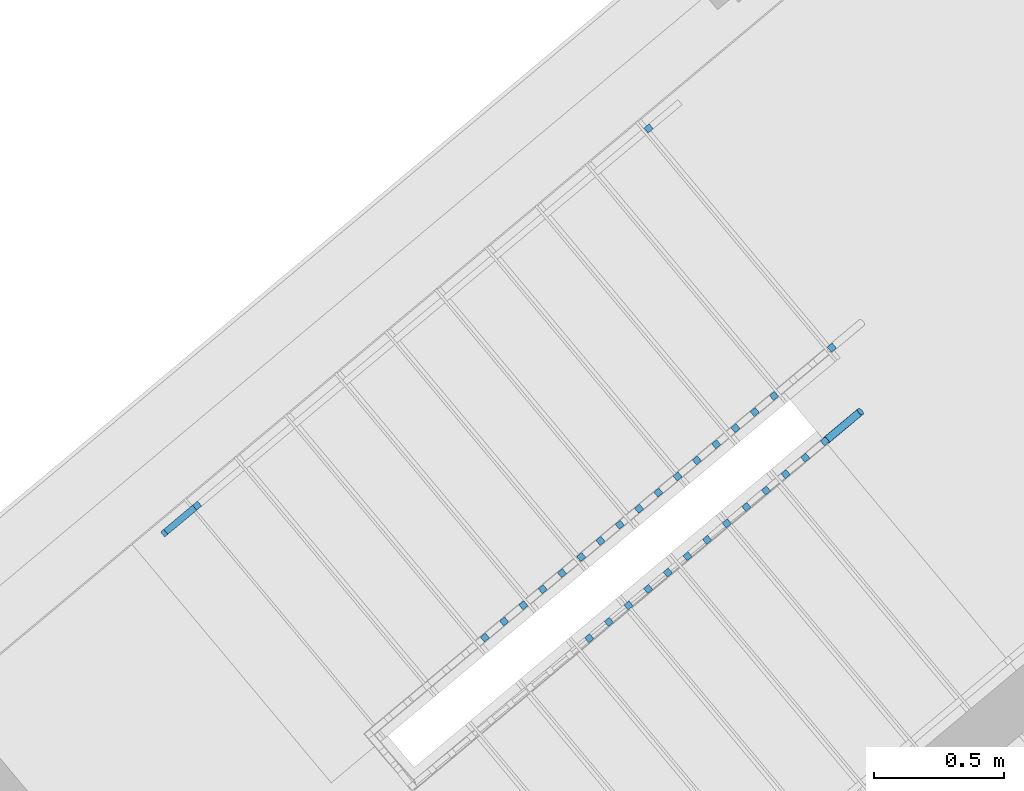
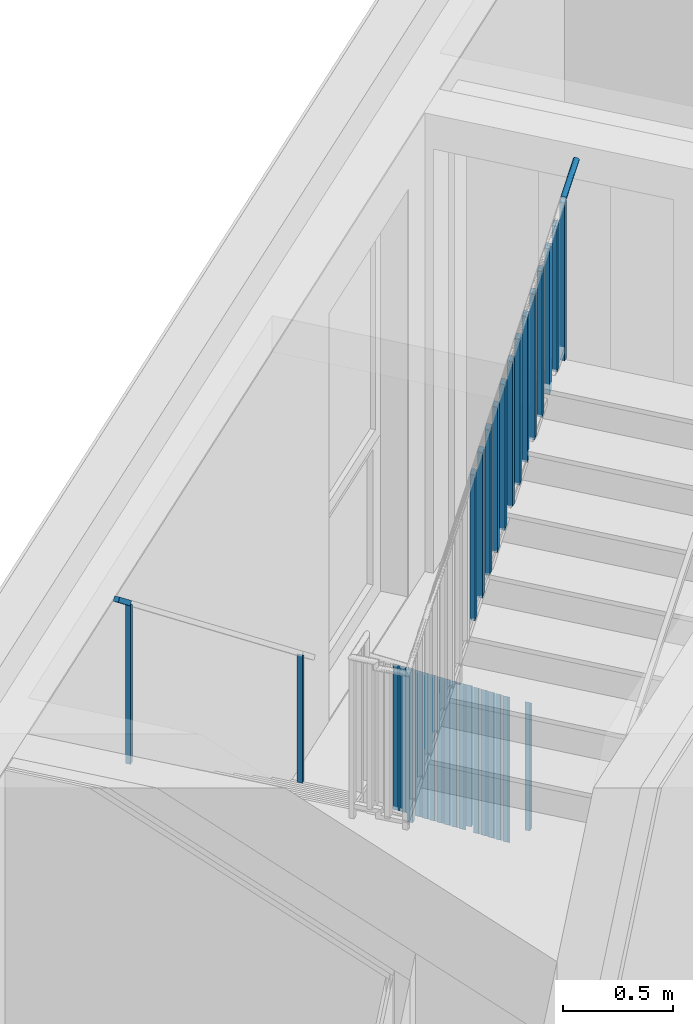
# One storey, part 48 of 61: 34 building element parts, 2 elements without a shape of their own.
"""IFC4 building model written with IfcOpenShell, lengths in metres."""

from ifc_helpers import new_model, entity, si_unit, converted_unit, derived_unit, direction, frame, origin_with_axes, place, context, subcontext, project, spatial, polygons, material, type_object, element, aggregate, save


model = new_model("IFC4")

# Units and contexts
model_context = context("Model", 3, precision=1e-05, world=origin_with_axes(), true_north=direction((0.0, 1.0)))
body_context = subcontext(model_context, "Body", "Model", "MODEL_VIEW")
ifc_project = project(units=[si_unit("LENGTHUNIT", "METRE"), si_unit("AREAUNIT", "SQUARE_METRE"), si_unit("VOLUMEUNIT", "CUBIC_METRE"), converted_unit("PLANEANGLEUNIT", "DEGREE", entity("IfcPlaneAngleMeasure", 0.0174532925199), si_unit("PLANEANGLEUNIT", "RADIAN"), dimensions=[0, 0, 0, 0, 0, 0, 0]), converted_unit("TIMEUNIT", "Year", entity("IfcTimeMeasure", 31556926.0), si_unit("TIMEUNIT", "SECOND"), dimensions=[0, 0, 1, 0, 0, 0, 0]), si_unit("MASSUNIT", "GRAM", prefix="KILO"), si_unit("THERMODYNAMICTEMPERATUREUNIT", "DEGREE_CELSIUS"), si_unit("LUMINOUSINTENSITYUNIT", "LUMEN"), si_unit("ENERGYUNIT", "JOULE", prefix="MEGA"), derived_unit("THERMALCONDUCTANCEUNIT", [(si_unit("POWERUNIT", "WATT"), 1), (si_unit("LENGTHUNIT", "METRE"), -1), (si_unit("THERMODYNAMICTEMPERATUREUNIT", "KELVIN"), -1)]), derived_unit("SPECIFICHEATCAPACITYUNIT", [(si_unit("ENERGYUNIT", "JOULE"), 1), (si_unit("MASSUNIT", "GRAM", prefix="KILO"), -1), (si_unit("THERMODYNAMICTEMPERATUREUNIT", "KELVIN"), -1)]), derived_unit("MASSDENSITYUNIT", [(si_unit("MASSUNIT", "GRAM", prefix="KILO"), 1), (si_unit("VOLUMEUNIT", "CUBIC_METRE"), -1)])], contexts=[model_context])

# Site, building, storey, space
site_placement = place(None, frame((-0.00153261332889, -0.00661245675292, 0.0), z_axis=(0.0, 0.0, 1.0), x_axis=(1.0, 0.0, 0.0)))
site = spatial("IfcSite", under=ifc_project, at=site_placement, Name="Gelände", CompositionType="ELEMENT")
building_placement = place(site_placement, origin_with_axes())
building = spatial("IfcBuilding", under=site, at=building_placement, Name="Gebäude", CompositionType="ELEMENT")
storey_placement = place(building_placement, frame((0.0, 0.0, 5.7), z_axis=(0.0, 0.0, 1.0), x_axis=(1.0, 0.0, 0.0)))
storey = spatial("IfcBuildingStorey", under=building, at=storey_placement, Name="DG1", CompositionType="ELEMENT", Elevation=5.7)
space_placement = place(storey_placement, frame((0.280300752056, 22.6307267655, 0.22), z_axis=(0.0, 0.0, 1.0), x_axis=(-0.641244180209, 0.767336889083, 0.0)))
space = spatial("IfcSpace", under=storey, at=space_placement, CompositionType="ELEMENT", PredefinedType="NOTDEFINED")

# Railing, building element parts
railing_type = type_object("IfcRailingType", Name="Geländerart", PredefinedType="NOTDEFINED")
railing_1_placement = place(space_placement, frame((1.35982515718, -0.251690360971, -0.17), z_axis=(0.0, 0.0, 1.0), x_axis=(-0.641244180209, -0.767336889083, 0.0)))
railing_1 = element("IfcRailing", 1, at=railing_1_placement, inside=space, type_object=railing_type, Name="Geländer - 001", PredefinedType="NOTDEFINED")
ifc_material = material(Name="BEKLEIDUNG")
building_element_part_1_placement = place(railing_1_placement, origin_with_axes())
building_element_part_1 = element("IfcBuildingElementPart", 2, at=building_element_part_1_placement, material=ifc_material, Name="BEKLEIDUNG", PredefinedType="NOTDEFINED", context=body_context, shape_type="Tessellation", body=[
    polygons([(-0.0496656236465, 0.0399477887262, 0.177058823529), (-0.0336363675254, 0.0207628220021, 0.177058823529), (-0.0336363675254, 0.0207628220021, 0.889746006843), (-0.0496656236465, 0.0399477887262, 0.889746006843), (-0.0304806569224, 0.0559770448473, 0.177058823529), (-0.0144514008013, 0.0367920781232, 0.177058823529), (-0.0144514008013, 0.0367920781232, 0.870253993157), (-0.0304806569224, 0.0559770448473, 0.870253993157)], [[[1, 2, 3, 4]], [[1, 5, 6, 2]], [[2, 6, 7, 3]], [[4, 3, 7, 8]], [[5, 1, 4, 8]], [[6, 5, 8, 7]]], closed=True),
])
building_element_part_2_placement = place(railing_1_placement, origin_with_axes())
building_element_part_2 = element("IfcBuildingElementPart", 3, at=building_element_part_2_placement, material=ifc_material, Name="BEKLEIDUNG", PredefinedType="NOTDEFINED", context=body_context, shape_type="Tessellation", body=[
    polygons([(-0.0409350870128, -0.323945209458, 3.01), (-0.0569653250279, -0.30476106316, 3.01), (-0.0569653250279, -0.30476106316, 3.89767233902), (-0.0409350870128, -0.323945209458, 3.89767233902), (-0.0601192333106, -0.339975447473, 3.01), (-0.0761494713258, -0.320791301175, 3.01), (-0.0761494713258, -0.320791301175, 3.88232766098), (-0.0601192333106, -0.339975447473, 3.88232766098)], [[[1, 2, 3, 4]], [[1, 5, 6, 2]], [[2, 6, 7, 3]], [[4, 3, 7, 8]], [[5, 1, 4, 8]], [[6, 5, 8, 7]]], closed=True),
])
building_element_part_3_placement = place(railing_1_placement, origin_with_axes())
building_element_part_3 = element("IfcBuildingElementPart", 4, at=building_element_part_3_placement, material=ifc_material, Name="BEKLEIDUNG", PredefinedType="NOTDEFINED", context=body_context, shape_type="Tessellation", body=[
    polygons([(-0.0621391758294, -0.305826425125, 3.89721601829), (-0.0630386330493, -0.30687497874, 3.89943593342), (0.0677612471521, -0.197578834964, 4.00405784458), (0.068660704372, -0.196530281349, 4.00183792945), (-0.0609474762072, -0.305127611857, 3.89499610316), (-0.0594997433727, -0.304799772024, 3.89284363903), (-0.0578399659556, -0.304852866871, 3.89082402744), (-0.0560185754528, -0.305285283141, 3.88899863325), (-0.054090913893, -0.306083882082, 3.88742292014), (-0.0521155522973, -0.30722439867, 3.88614476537), (-0.0501525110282, -0.308672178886, 3.88520300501), (-0.0482614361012, -0.310383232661, 3.88462625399), (-0.0464997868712, -0.312305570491, 3.88443203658), (-0.0449210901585, -0.314380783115, 3.88462625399), (-0.043573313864, -0.316545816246, 3.88520300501), (-0.0424974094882, -0.318734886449, 3.88614476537), (-0.0417260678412, -0.320881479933, 3.88742292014), (-0.0412827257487, -0.322920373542, 3.88899863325), (-0.0411808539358, -0.324789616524, 3.89082402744), (-0.041423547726, -0.326432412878, 3.89284363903), (-0.0420034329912, -0.327798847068, 3.89499610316), (-0.0429028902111, -0.328847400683, 3.89721601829), (-0.0440945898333, -0.329546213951, 3.89943593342), (-0.0455423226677, -0.329874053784, 3.90158839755), (-0.0472021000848, -0.329820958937, 3.90360800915), (-0.0490234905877, -0.329388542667, 3.90543340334), (-0.0509511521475, -0.328589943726, 3.90700911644), (-0.0529265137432, -0.327449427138, 3.90828727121), (-0.0548895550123, -0.326001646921, 3.90922903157), (-0.0567806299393, -0.324290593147, 3.90980578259), (-0.0585422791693, -0.322368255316, 3.91), (-0.0601209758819, -0.320293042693, 3.90980578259), (-0.0614687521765, -0.318128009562, 3.90922903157), (-0.0625446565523, -0.315938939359, 3.90828727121), (-0.0633159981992, -0.313792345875, 3.90700911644), (-0.0637593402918, -0.311753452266, 3.90543340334), (-0.0638612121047, -0.309884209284, 3.90360800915), (-0.0636185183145, -0.30824141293, 3.90158839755), (0.0671813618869, -0.198945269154, 4.00621030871), (0.0669386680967, -0.200588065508, 4.00822992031), (0.0670405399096, -0.20245730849, 4.0100553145), (0.0674838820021, -0.204496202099, 4.0116310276), (0.0682552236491, -0.206642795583, 4.01290918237), (0.0693311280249, -0.208831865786, 4.01385094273), (0.0706789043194, -0.210996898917, 4.01442769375), (0.0722576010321, -0.213072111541, 4.01462191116), (0.0740192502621, -0.214994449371, 4.01442769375), (0.0759103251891, -0.216705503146, 4.01385094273), (0.0778733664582, -0.218153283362, 4.01290918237), (0.0798487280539, -0.21929379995, 4.0116310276), (0.0817763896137, -0.220092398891, 4.0100553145), (0.0835977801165, -0.220524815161, 4.00822992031), (0.0852575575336, -0.220577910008, 4.00621030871), (0.0867052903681, -0.220250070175, 4.00405784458), (0.0878969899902, -0.219551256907, 4.00183792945), (0.0887964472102, -0.218502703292, 3.99961801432), (0.0893763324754, -0.217136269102, 3.9974655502), (0.0896190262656, -0.215493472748, 3.9954459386), (0.0895171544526, -0.213624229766, 3.99362054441), (0.0890738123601, -0.211585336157, 3.9920448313), (0.0883024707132, -0.209438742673, 3.99076667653), (0.0872265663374, -0.20724967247, 3.98982491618), (0.0858787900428, -0.205084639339, 3.98924816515), (0.0843000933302, -0.203009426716, 3.98905394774), (0.0825384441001, -0.201087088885, 3.98924816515), (0.0806473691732, -0.199376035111, 3.98982491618), (0.0786843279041, -0.197928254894, 3.99076667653), (0.0767089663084, -0.196787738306, 3.9920448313), (0.0747813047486, -0.195989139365, 3.99362054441), (0.0729599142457, -0.195556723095, 3.9954459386), (0.0713001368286, -0.195503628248, 3.9974655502), (0.0698524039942, -0.195831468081, 3.99961801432)], [[[1, 2, 3, 4]], [[1, 5, 6, 7, 8, 9, 10, 11, 12, 13, 14, 15, 16, 17, 18, 19, 20, 21, 22, 23, 24, 25, 26, 27, 28, 29, 30, 31, 32, 33, 34, 35, 36, 37, 38, 2]], [[2, 38, 39, 3]], [[4, 3, 39, 40, 41, 42, 43, 44, 45, 46, 47, 48, 49, 50, 51, 52, 53, 54, 55, 56, 57, 58, 59, 60, 61, 62, 63, 64, 65, 66, 67, 68, 69, 70, 71, 72]], [[5, 1, 4, 72]], [[6, 5, 72, 71]], [[7, 6, 71, 70]], [[8, 7, 70, 69]], [[9, 8, 69, 68]], [[10, 9, 68, 67]], [[11, 10, 67, 66]], [[12, 11, 66, 65]], [[13, 12, 65, 64]], [[14, 13, 64, 63]], [[15, 14, 63, 62]], [[16, 15, 62, 61]], [[17, 16, 61, 60]], [[18, 17, 60, 59]], [[19, 18, 59, 58]], [[20, 19, 58, 57]], [[21, 20, 57, 56]], [[22, 21, 56, 55]], [[23, 22, 55, 54]], [[24, 23, 54, 53]], [[25, 24, 53, 52]], [[26, 25, 52, 51]], [[27, 26, 51, 50]], [[28, 27, 50, 49]], [[29, 28, 49, 48]], [[30, 29, 48, 47]], [[31, 30, 47, 46]], [[32, 31, 46, 45]], [[33, 32, 45, 44]], [[34, 33, 44, 43]], [[35, 34, 43, 42]], [[36, 35, 42, 41]], [[37, 36, 41, 40]], [[38, 37, 40, 39]]], closed=True),
])
building_element_part_4_placement = place(railing_1_placement, origin_with_axes())
building_element_part_4 = element("IfcBuildingElementPart", 5, at=building_element_part_4_placement, material=ifc_material, Name="BEKLEIDUNG", PredefinedType="NOTDEFINED", context=body_context, shape_type="Tessellation", body=[
    polygons([(-0.272299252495, -0.146065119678, 0.30594278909), (-0.256269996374, -0.165250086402, 0.30594278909), (-0.256269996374, -0.165250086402, 1.11344278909), (-0.272299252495, -0.146065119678, 1.11344278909), (-0.253114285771, -0.130035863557, 0.286450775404), (-0.23708502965, -0.149220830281, 0.286450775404), (-0.23708502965, -0.149220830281, 1.0939507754), (-0.253114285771, -0.130035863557, 1.0939507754)], [[[1, 2, 3, 4]], [[1, 5, 6, 2]], [[2, 6, 7, 3]], [[4, 3, 7, 8]], [[5, 1, 4, 8]], [[6, 5, 8, 7]]], closed=True),
])
building_element_part_5_placement = place(railing_1_placement, origin_with_axes())
building_element_part_5 = element("IfcBuildingElementPart", 6, at=building_element_part_5_placement, material=ifc_material, Name="BEKLEIDUNG", PredefinedType="NOTDEFINED", context=body_context, shape_type="Tessellation", body=[
    polygons([(-0.346510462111, -0.20806942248, 0.381341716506), (-0.33048120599, -0.227254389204, 0.381341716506), (-0.33048120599, -0.227254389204, 1.18884171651), (-0.346510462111, -0.20806942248, 1.18884171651), (-0.327325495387, -0.192040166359, 0.36184970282), (-0.311296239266, -0.211225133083, 0.36184970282), (-0.311296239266, -0.211225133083, 1.16934970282), (-0.327325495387, -0.192040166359, 1.16934970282)], [[[1, 2, 3, 4]], [[1, 5, 6, 2]], [[2, 6, 7, 3]], [[4, 3, 7, 8]], [[5, 1, 4, 8]], [[6, 5, 8, 7]]], closed=True),
])
building_element_part_6_placement = place(railing_1_placement, origin_with_axes())
building_element_part_6 = element("IfcBuildingElementPart", 7, at=building_element_part_6_placement, material=ifc_material, Name="BEKLEIDUNG", PredefinedType="NOTDEFINED", context=body_context, shape_type="Tessellation", body=[
    polygons([(-0.420721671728, -0.270073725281, 0.456740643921), (-0.404692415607, -0.289258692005, 0.456740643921), (-0.404692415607, -0.289258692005, 1.26424064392), (-0.420721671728, -0.270073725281, 1.26424064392), (-0.401536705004, -0.25404446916, 0.437248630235), (-0.385507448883, -0.273229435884, 0.437248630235), (-0.385507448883, -0.273229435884, 1.24474863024), (-0.401536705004, -0.25404446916, 1.24474863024)], [[[1, 2, 3, 4]], [[1, 5, 6, 2]], [[2, 6, 7, 3]], [[4, 3, 7, 8]], [[5, 1, 4, 8]], [[6, 5, 8, 7]]], closed=True),
])
building_element_part_7_placement = place(railing_1_placement, origin_with_axes())
building_element_part_7 = element("IfcBuildingElementPart", 8, at=building_element_part_7_placement, material=ifc_material, Name="BEKLEIDUNG", PredefinedType="NOTDEFINED", context=body_context, shape_type="Tessellation", body=[
    polygons([(-0.494932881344, -0.332078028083, 0.532139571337), (-0.478903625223, -0.351262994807, 0.532139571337), (-0.478903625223, -0.351262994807, 1.33963957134), (-0.494932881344, -0.332078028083, 1.33963957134), (-0.47574791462, -0.316048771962, 0.512647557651), (-0.459718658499, -0.335233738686, 0.512647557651), (-0.459718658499, -0.335233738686, 1.32014755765), (-0.47574791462, -0.316048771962, 1.32014755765)], [[[1, 2, 3, 4]], [[1, 5, 6, 2]], [[2, 6, 7, 3]], [[4, 3, 7, 8]], [[5, 1, 4, 8]], [[6, 5, 8, 7]]], closed=True),
])
building_element_part_8_placement = place(railing_1_placement, origin_with_axes())
building_element_part_8 = element("IfcBuildingElementPart", 9, at=building_element_part_8_placement, material=ifc_material, Name="BEKLEIDUNG", PredefinedType="NOTDEFINED", context=body_context, shape_type="Tessellation", body=[
    polygons([(-0.56914409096, -0.394082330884, 0.607538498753), (-0.553114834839, -0.413267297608, 0.607538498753), (-0.553114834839, -0.413267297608, 1.41503849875), (-0.56914409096, -0.394082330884, 1.41503849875), (-0.549959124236, -0.378053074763, 0.588046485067), (-0.533929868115, -0.397238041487, 0.588046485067), (-0.533929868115, -0.397238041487, 1.39554648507), (-0.549959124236, -0.378053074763, 1.39554648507)], [[[1, 2, 3, 4]], [[1, 5, 6, 2]], [[2, 6, 7, 3]], [[4, 3, 7, 8]], [[5, 1, 4, 8]], [[6, 5, 8, 7]]], closed=True),
])
building_element_part_9_placement = place(railing_1_placement, origin_with_axes())
building_element_part_9 = element("IfcBuildingElementPart", 10, at=building_element_part_9_placement, material=ifc_material, Name="BEKLEIDUNG", PredefinedType="NOTDEFINED", context=body_context, shape_type="Tessellation", body=[
    polygons([(-0.643355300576, -0.456086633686, 0.708235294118), (-0.627326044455, -0.47527160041, 0.708235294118), (-0.627326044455, -0.47527160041, 1.49293742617), (-0.643355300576, -0.456086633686, 1.49293742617), (-0.624170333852, -0.440057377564, 0.708235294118), (-0.608141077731, -0.459242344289, 0.708235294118), (-0.608141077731, -0.459242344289, 1.47344541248), (-0.624170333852, -0.440057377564, 1.47344541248)], [[[1, 2, 3, 4]], [[1, 5, 6, 2]], [[2, 6, 7, 3]], [[4, 3, 7, 8]], [[5, 1, 4, 8]], [[6, 5, 8, 7]]], closed=True),
])
building_element_part_10_placement = place(railing_1_placement, origin_with_axes())
building_element_part_10 = element("IfcBuildingElementPart", 11, at=building_element_part_10_placement, material=ifc_material, Name="BEKLEIDUNG", PredefinedType="NOTDEFINED", context=body_context, shape_type="Tessellation", body=[
    polygons([(-0.717566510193, -0.518090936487, 0.758336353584), (-0.701537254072, -0.537275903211, 0.758336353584), (-0.701537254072, -0.537275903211, 1.56583635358), (-0.717566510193, -0.518090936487, 1.56583635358), (-0.698381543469, -0.502061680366, 0.738844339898), (-0.682352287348, -0.52124664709, 0.738844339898), (-0.682352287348, -0.52124664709, 1.5463443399), (-0.698381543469, -0.502061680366, 1.5463443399)], [[[1, 2, 3, 4]], [[1, 5, 6, 2]], [[2, 6, 7, 3]], [[4, 3, 7, 8]], [[5, 1, 4, 8]], [[6, 5, 8, 7]]], closed=True),
])
building_element_part_11_placement = place(railing_1_placement, origin_with_axes())
building_element_part_11 = element("IfcBuildingElementPart", 12, at=building_element_part_11_placement, material=ifc_material, Name="BEKLEIDUNG", PredefinedType="NOTDEFINED", context=body_context, shape_type="Tessellation", body=[
    polygons([(-0.791777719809, -0.580095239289, 0.833735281), (-0.775748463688, -0.599280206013, 0.833735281), (-0.775748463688, -0.599280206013, 1.641235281), (-0.791777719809, -0.580095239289, 1.641235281), (-0.772592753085, -0.564065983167, 0.814243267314), (-0.756563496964, -0.583250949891, 0.814243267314), (-0.756563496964, -0.583250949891, 1.62174326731), (-0.772592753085, -0.564065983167, 1.62174326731)], [[[1, 2, 3, 4]], [[1, 5, 6, 2]], [[2, 6, 7, 3]], [[4, 3, 7, 8]], [[5, 1, 4, 8]], [[6, 5, 8, 7]]], closed=True),
])
building_element_part_12_placement = place(railing_1_placement, origin_with_axes())
building_element_part_12 = element("IfcBuildingElementPart", 13, at=building_element_part_12_placement, material=ifc_material, Name="BEKLEIDUNG", PredefinedType="NOTDEFINED", context=body_context, shape_type="Tessellation", body=[
    polygons([(-0.865988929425, -0.64209954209, 0.909134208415), (-0.849959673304, -0.661284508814, 0.909134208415), (-0.849959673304, -0.661284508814, 1.71663420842), (-0.865988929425, -0.64209954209, 1.71663420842), (-0.846803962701, -0.626070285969, 0.889642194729), (-0.83077470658, -0.645255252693, 0.889642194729), (-0.83077470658, -0.645255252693, 1.69714219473), (-0.846803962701, -0.626070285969, 1.69714219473)], [[[1, 2, 3, 4]], [[1, 5, 6, 2]], [[2, 6, 7, 3]], [[4, 3, 7, 8]], [[5, 1, 4, 8]], [[6, 5, 8, 7]]], closed=True),
])
building_element_part_13_placement = place(railing_1_placement, origin_with_axes())
building_element_part_13 = element("IfcBuildingElementPart", 14, at=building_element_part_13_placement, material=ifc_material, Name="BEKLEIDUNG", PredefinedType="NOTDEFINED", context=body_context, shape_type="Tessellation", body=[
    polygons([(-0.940200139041, -0.704103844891, 0.984533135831), (-0.92417088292, -0.723288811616, 0.984533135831), (-0.92417088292, -0.723288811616, 1.79203313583), (-0.940200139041, -0.704103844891, 1.79203313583), (-0.921015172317, -0.68807458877, 0.965041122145), (-0.904985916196, -0.707259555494, 0.965041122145), (-0.904985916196, -0.707259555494, 1.77254112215), (-0.921015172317, -0.68807458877, 1.77254112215)], [[[1, 2, 3, 4]], [[1, 5, 6, 2]], [[2, 6, 7, 3]], [[4, 3, 7, 8]], [[5, 1, 4, 8]], [[6, 5, 8, 7]]], closed=True),
])
building_element_part_14_placement = place(railing_1_placement, origin_with_axes())
building_element_part_14 = element("IfcBuildingElementPart", 15, at=building_element_part_14_placement, material=ifc_material, Name="BEKLEIDUNG", PredefinedType="NOTDEFINED", context=body_context, shape_type="Tessellation", body=[
    polygons([(-1.01441134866, -0.766108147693, 1.05993206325), (-0.998382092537, -0.785293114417, 1.05993206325), (-0.998382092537, -0.785293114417, 1.86743206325), (-1.01441134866, -0.766108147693, 1.86743206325), (-0.995226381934, -0.750078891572, 1.04044004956), (-0.979197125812, -0.769263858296, 1.04044004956), (-0.979197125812, -0.769263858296, 1.84794004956), (-0.995226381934, -0.750078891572, 1.84794004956)], [[[1, 2, 3, 4]], [[1, 5, 6, 2]], [[2, 6, 7, 3]], [[4, 3, 7, 8]], [[5, 1, 4, 8]], [[6, 5, 8, 7]]], closed=True),
])
building_element_part_15_placement = place(railing_1_placement, origin_with_axes())
building_element_part_15 = element("IfcBuildingElementPart", 16, at=building_element_part_15_placement, material=ifc_material, Name="BEKLEIDUNG", PredefinedType="NOTDEFINED", context=body_context, shape_type="Tessellation", body=[
    polygons([(-1.08862255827, -0.828112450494, 1.13533099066), (-1.07259330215, -0.847297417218, 1.13533099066), (-1.07259330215, -0.847297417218, 1.94283099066), (-1.08862255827, -0.828112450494, 1.94283099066), (-1.06943759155, -0.812083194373, 1.11583897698), (-1.05340833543, -0.831268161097, 1.11583897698), (-1.05340833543, -0.831268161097, 1.92333897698), (-1.06943759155, -0.812083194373, 1.92333897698)], [[[1, 2, 3, 4]], [[1, 5, 6, 2]], [[2, 6, 7, 3]], [[4, 3, 7, 8]], [[5, 1, 4, 8]], [[6, 5, 8, 7]]], closed=True),
])
building_element_part_16_placement = place(railing_1_placement, origin_with_axes())
building_element_part_16 = element("IfcBuildingElementPart", 17, at=building_element_part_16_placement, material=ifc_material, Name="BEKLEIDUNG", PredefinedType="NOTDEFINED", context=body_context, shape_type="Tessellation", body=[
    polygons([(-1.16283376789, -0.890116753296, 1.21072991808), (-1.14680451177, -0.90930172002, 1.21072991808), (-1.14680451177, -0.90930172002, 2.01822991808), (-1.16283376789, -0.890116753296, 2.01822991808), (-1.14364880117, -0.874087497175, 1.19123790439), (-1.12761954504, -0.893272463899, 1.19123790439), (-1.12761954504, -0.893272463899, 1.99873790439), (-1.14364880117, -0.874087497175, 1.99873790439)], [[[1, 2, 3, 4]], [[1, 5, 6, 2]], [[2, 6, 7, 3]], [[4, 3, 7, 8]], [[5, 1, 4, 8]], [[6, 5, 8, 7]]], closed=True),
])
building_element_part_17_placement = place(railing_1_placement, origin_with_axes())
building_element_part_17 = element("IfcBuildingElementPart", 18, at=building_element_part_17_placement, material=ifc_material, Name="BEKLEIDUNG", PredefinedType="NOTDEFINED", context=body_context, shape_type="Tessellation", body=[
    polygons([(-1.23704497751, -0.952121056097, 1.23941176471), (-1.22101572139, -0.971306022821, 1.23941176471), (-1.22101572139, -0.971306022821, 2.09612884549), (-1.23704497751, -0.952121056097, 2.09612884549), (-1.21786001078, -0.936091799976, 1.23941176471), (-1.20183075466, -0.9552767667, 1.23941176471), (-1.20183075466, -0.9552767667, 2.07663683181), (-1.21786001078, -0.936091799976, 2.07663683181)], [[[1, 2, 3, 4]], [[1, 5, 6, 2]], [[2, 6, 7, 3]], [[4, 3, 7, 8]], [[5, 1, 4, 8]], [[6, 5, 8, 7]]], closed=True),
])
building_element_part_18_placement = place(railing_1_placement, origin_with_axes())
building_element_part_18 = element("IfcBuildingElementPart", 19, at=building_element_part_18_placement, material=ifc_material, Name="BEKLEIDUNG", PredefinedType="NOTDEFINED", context=body_context, shape_type="Tessellation", body=[
    polygons([(-1.31125618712, -1.0141253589, 1.36152777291), (-1.295226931, -1.03331032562, 1.36152777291), (-1.295226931, -1.03331032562, 2.16902777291), (-1.31125618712, -1.0141253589, 2.16902777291), (-1.2920712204, -0.998096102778, 1.34203575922), (-1.27604196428, -1.0172810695, 1.34203575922), (-1.27604196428, -1.0172810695, 2.14953575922), (-1.2920712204, -0.998096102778, 2.14953575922)], [[[1, 2, 3, 4]], [[1, 5, 6, 2]], [[2, 6, 7, 3]], [[4, 3, 7, 8]], [[5, 1, 4, 8]], [[6, 5, 8, 7]]], closed=True),
])
building_element_part_19_placement = place(railing_1_placement, origin_with_axes())
building_element_part_19 = element("IfcBuildingElementPart", 20, at=building_element_part_19_placement, material=ifc_material, Name="BEKLEIDUNG", PredefinedType="NOTDEFINED", context=body_context, shape_type="Tessellation", body=[
    polygons([(-1.38546739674, -1.0761296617, 1.43692670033), (-1.36943814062, -1.09531462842, 1.43692670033), (-1.36943814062, -1.09531462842, 2.24442670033), (-1.38546739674, -1.0761296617, 2.24442670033), (-1.36628243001, -1.06010040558, 1.41743468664), (-1.35025317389, -1.0792853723, 1.41743468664), (-1.35025317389, -1.0792853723, 2.22493468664), (-1.36628243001, -1.06010040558, 2.22493468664)], [[[1, 2, 3, 4]], [[1, 5, 6, 2]], [[2, 6, 7, 3]], [[4, 3, 7, 8]], [[5, 1, 4, 8]], [[6, 5, 8, 7]]], closed=True),
])
building_element_part_20_placement = place(railing_1_placement, origin_with_axes())
building_element_part_20 = element("IfcBuildingElementPart", 21, at=building_element_part_20_placement, material=ifc_material, Name="BEKLEIDUNG", PredefinedType="NOTDEFINED", context=body_context, shape_type="Tessellation", body=[
    polygons([(-0.948306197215, -1.08214287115, 2.36190027), (-0.96433643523, -1.06295872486, 2.36190027), (-0.96433643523, -1.06295872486, 3.16940027), (-0.948306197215, -1.08214287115, 3.16940027), (-0.967490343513, -1.09817310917, 2.34655559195), (-0.983520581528, -1.07898896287, 2.34655559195), (-0.983520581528, -1.07898896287, 3.15405559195), (-0.967490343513, -1.09817310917, 3.15405559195)], [[[1, 2, 3, 4]], [[1, 5, 6, 2]], [[2, 6, 7, 3]], [[4, 3, 7, 8]], [[5, 1, 4, 8]], [[6, 5, 8, 7]]], closed=True),
])
building_element_part_21_placement = place(railing_1_placement, origin_with_axes())
building_element_part_21 = element("IfcBuildingElementPart", 22, at=building_element_part_21_placement, material=ifc_material, Name="BEKLEIDUNG", PredefinedType="NOTDEFINED", context=body_context, shape_type="Tessellation", body=[
    polygons([(-0.872691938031, -1.01895973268, 2.42238127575), (-0.888722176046, -0.999775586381, 2.42238127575), (-0.888722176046, -0.999775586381, 3.22988127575), (-0.872691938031, -1.01895973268, 3.22988127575), (-0.891876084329, -1.03498997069, 2.40703659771), (-0.907906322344, -1.0158058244, 2.40703659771), (-0.907906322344, -1.0158058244, 3.21453659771), (-0.891876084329, -1.03498997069, 3.21453659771)], [[[1, 2, 3, 4]], [[1, 5, 6, 2]], [[2, 6, 7, 3]], [[4, 3, 7, 8]], [[5, 1, 4, 8]], [[6, 5, 8, 7]]], closed=True),
])
building_element_part_22_placement = place(railing_1_placement, origin_with_axes())
building_element_part_22 = element("IfcBuildingElementPart", 23, at=building_element_part_22_placement, material=ifc_material, Name="BEKLEIDUNG", PredefinedType="NOTDEFINED", context=body_context, shape_type="Tessellation", body=[
    polygons([(-0.797077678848, -0.955776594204, 2.4828622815), (-0.813107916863, -0.936592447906, 2.4828622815), (-0.813107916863, -0.936592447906, 3.2903622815), (-0.797077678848, -0.955776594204, 3.2903622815), (-0.816261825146, -0.971806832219, 2.46751760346), (-0.832292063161, -0.952622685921, 2.46751760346), (-0.832292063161, -0.952622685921, 3.27501760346), (-0.816261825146, -0.971806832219, 3.27501760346)], [[[1, 2, 3, 4]], [[1, 5, 6, 2]], [[2, 6, 7, 3]], [[4, 3, 7, 8]], [[5, 1, 4, 8]], [[6, 5, 8, 7]]], closed=True),
])
building_element_part_23_placement = place(railing_1_placement, origin_with_axes())
building_element_part_23 = element("IfcBuildingElementPart", 24, at=building_element_part_23_placement, material=ifc_material, Name="BEKLEIDUNG", PredefinedType="NOTDEFINED", context=body_context, shape_type="Tessellation", body=[
    polygons([(-0.721463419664, -0.892593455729, 2.54334328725), (-0.737493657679, -0.873409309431, 2.54334328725), (-0.737493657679, -0.873409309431, 3.35084328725), (-0.721463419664, -0.892593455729, 3.35084328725), (-0.740647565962, -0.908623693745, 2.52799860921), (-0.756677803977, -0.889439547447, 2.52799860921), (-0.756677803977, -0.889439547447, 3.33549860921), (-0.740647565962, -0.908623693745, 3.33549860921)], [[[1, 2, 3, 4]], [[1, 5, 6, 2]], [[2, 6, 7, 3]], [[4, 3, 7, 8]], [[5, 1, 4, 8]], [[6, 5, 8, 7]]], closed=True),
])
building_element_part_24_placement = place(railing_1_placement, origin_with_axes())
building_element_part_24 = element("IfcBuildingElementPart", 25, at=building_element_part_24_placement, material=ifc_material, Name="BEKLEIDUNG", PredefinedType="NOTDEFINED", context=body_context, shape_type="Tessellation", body=[
    polygons([(-0.645849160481, -0.829410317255, 2.60382429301), (-0.661879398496, -0.810226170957, 2.60382429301), (-0.661879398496, -0.810226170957, 3.41132429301), (-0.645849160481, -0.829410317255, 3.41132429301), (-0.665033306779, -0.84544055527, 2.58847961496), (-0.681063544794, -0.826256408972, 2.58847961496), (-0.681063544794, -0.826256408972, 3.39597961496), (-0.665033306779, -0.84544055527, 3.39597961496)], [[[1, 2, 3, 4]], [[1, 5, 6, 2]], [[2, 6, 7, 3]], [[4, 3, 7, 8]], [[5, 1, 4, 8]], [[6, 5, 8, 7]]], closed=True),
])
building_element_part_25_placement = place(railing_1_placement, origin_with_axes())
building_element_part_25 = element("IfcBuildingElementPart", 26, at=building_element_part_25_placement, material=ifc_material, Name="BEKLEIDUNG", PredefinedType="NOTDEFINED", context=body_context, shape_type="Tessellation", body=[
    polygons([(-0.570234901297, -0.76622717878, 2.65588235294), (-0.586265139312, -0.747043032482, 2.65588235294), (-0.586265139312, -0.747043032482, 3.47430529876), (-0.570234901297, -0.76622717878, 3.47430529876), (-0.589419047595, -0.782257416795, 2.65588235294), (-0.60544928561, -0.763073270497, 2.65588235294), (-0.60544928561, -0.763073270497, 3.45896062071), (-0.589419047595, -0.782257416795, 3.45896062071)], [[[1, 2, 3, 4]], [[1, 5, 6, 2]], [[2, 6, 7, 3]], [[4, 3, 7, 8]], [[5, 1, 4, 8]], [[6, 5, 8, 7]]], closed=True),
])
building_element_part_26_placement = place(railing_1_placement, origin_with_axes())
building_element_part_26 = element("IfcBuildingElementPart", 27, at=building_element_part_26_placement, material=ifc_material, Name="BEKLEIDUNG", PredefinedType="NOTDEFINED", context=body_context, shape_type="Tessellation", body=[
    polygons([(-0.494620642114, -0.703044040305, 2.72478630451), (-0.510650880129, -0.683859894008, 2.72478630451), (-0.510650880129, -0.683859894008, 3.53228630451), (-0.494620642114, -0.703044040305, 3.53228630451), (-0.513804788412, -0.719074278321, 2.70944162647), (-0.529835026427, -0.699890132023, 2.70944162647), (-0.529835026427, -0.699890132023, 3.51694162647), (-0.513804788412, -0.719074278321, 3.51694162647)], [[[1, 2, 3, 4]], [[1, 5, 6, 2]], [[2, 6, 7, 3]], [[4, 3, 7, 8]], [[5, 1, 4, 8]], [[6, 5, 8, 7]]], closed=True),
])
building_element_part_27_placement = place(railing_1_placement, origin_with_axes())
building_element_part_27 = element("IfcBuildingElementPart", 28, at=building_element_part_27_placement, material=ifc_material, Name="BEKLEIDUNG", PredefinedType="NOTDEFINED", context=body_context, shape_type="Tessellation", body=[
    polygons([(-0.41900638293, -0.639860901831, 2.78526731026), (-0.435036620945, -0.620676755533, 2.78526731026), (-0.435036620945, -0.620676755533, 3.59276731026), (-0.41900638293, -0.639860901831, 3.59276731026), (-0.438190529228, -0.655891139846, 2.76992263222), (-0.454220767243, -0.636706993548, 2.76992263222), (-0.454220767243, -0.636706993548, 3.57742263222), (-0.438190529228, -0.655891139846, 3.57742263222)], [[[1, 2, 3, 4]], [[1, 5, 6, 2]], [[2, 6, 7, 3]], [[4, 3, 7, 8]], [[5, 1, 4, 8]], [[6, 5, 8, 7]]], closed=True),
])
building_element_part_28_placement = place(railing_1_placement, origin_with_axes())
building_element_part_28 = element("IfcBuildingElementPart", 29, at=building_element_part_28_placement, material=ifc_material, Name="BEKLEIDUNG", PredefinedType="NOTDEFINED", context=body_context, shape_type="Tessellation", body=[
    polygons([(-0.343392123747, -0.576677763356, 2.84574831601), (-0.359422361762, -0.557493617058, 2.84574831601), (-0.359422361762, -0.557493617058, 3.65324831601), (-0.343392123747, -0.576677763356, 3.65324831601), (-0.362576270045, -0.592708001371, 2.83040363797), (-0.37860650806, -0.573523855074, 2.83040363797), (-0.37860650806, -0.573523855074, 3.63790363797), (-0.362576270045, -0.592708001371, 3.63790363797)], [[[1, 2, 3, 4]], [[1, 5, 6, 2]], [[2, 6, 7, 3]], [[4, 3, 7, 8]], [[5, 1, 4, 8]], [[6, 5, 8, 7]]], closed=True),
])
building_element_part_29_placement = place(railing_1_placement, origin_with_axes())
building_element_part_29 = element("IfcBuildingElementPart", 30, at=building_element_part_29_placement, material=ifc_material, Name="BEKLEIDUNG", PredefinedType="NOTDEFINED", context=body_context, shape_type="Tessellation", body=[
    polygons([(-0.267777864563, -0.513494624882, 2.90622932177), (-0.283808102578, -0.494310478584, 2.90622932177), (-0.283808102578, -0.494310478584, 3.71372932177), (-0.267777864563, -0.513494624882, 3.71372932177), (-0.286962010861, -0.529524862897, 2.89088464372), (-0.302992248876, -0.510340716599, 2.89088464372), (-0.302992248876, -0.510340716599, 3.69838464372), (-0.286962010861, -0.529524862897, 3.69838464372)], [[[1, 2, 3, 4]], [[1, 5, 6, 2]], [[2, 6, 7, 3]], [[4, 3, 7, 8]], [[5, 1, 4, 8]], [[6, 5, 8, 7]]], closed=True),
])
building_element_part_30_placement = place(railing_1_placement, origin_with_axes())
building_element_part_30 = element("IfcBuildingElementPart", 31, at=building_element_part_30_placement, material=ifc_material, Name="BEKLEIDUNG", PredefinedType="NOTDEFINED", context=body_context, shape_type="Tessellation", body=[
    polygons([(-0.19216360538, -0.450311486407, 2.96671032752), (-0.208193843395, -0.431127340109, 2.96671032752), (-0.208193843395, -0.431127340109, 3.77421032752), (-0.19216360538, -0.450311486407, 3.77421032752), (-0.211347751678, -0.466341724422, 2.95136564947), (-0.227377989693, -0.447157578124, 2.95136564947), (-0.227377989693, -0.447157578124, 3.75886564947), (-0.211347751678, -0.466341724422, 3.75886564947)], [[[1, 2, 3, 4]], [[1, 5, 6, 2]], [[2, 6, 7, 3]], [[4, 3, 7, 8]], [[5, 1, 4, 8]], [[6, 5, 8, 7]]], closed=True),
])
building_element_part_31_placement = place(railing_1_placement, origin_with_axes())
building_element_part_31 = element("IfcBuildingElementPart", 32, at=building_element_part_31_placement, material=ifc_material, Name="BEKLEIDUNG", PredefinedType="NOTDEFINED", context=body_context, shape_type="Tessellation", body=[
    polygons([(-0.116549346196, -0.387128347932, 3.02719133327), (-0.132579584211, -0.367944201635, 3.02719133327), (-0.132579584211, -0.367944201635, 3.83469133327), (-0.116549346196, -0.387128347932, 3.83469133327), (-0.135733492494, -0.403158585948, 3.01184665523), (-0.151763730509, -0.38397443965, 3.01184665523), (-0.151763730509, -0.38397443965, 3.81934665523), (-0.135733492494, -0.403158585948, 3.81934665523)], [[[1, 2, 3, 4]], [[1, 5, 6, 2]], [[2, 6, 7, 3]], [[4, 3, 7, 8]], [[5, 1, 4, 8]], [[6, 5, 8, 7]]], closed=True),
])
aggregate(railing_1, [building_element_part_1, building_element_part_2, building_element_part_3, building_element_part_4, building_element_part_5, building_element_part_6, building_element_part_7, building_element_part_8, building_element_part_9, building_element_part_10, building_element_part_11, building_element_part_12, building_element_part_13, building_element_part_14, building_element_part_15, building_element_part_16, building_element_part_17, building_element_part_18, building_element_part_19, building_element_part_20, building_element_part_21, building_element_part_22, building_element_part_23, building_element_part_24, building_element_part_25, building_element_part_26, building_element_part_27, building_element_part_28, building_element_part_29, building_element_part_30, building_element_part_31])

railing_2_placement = place(space_placement, frame((2.55982515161, -0.251805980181, -0.17), z_axis=(0.0, 0.0, 1.0), x_axis=(-0.641244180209, -0.767336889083, 0.0)))
railing_2 = element("IfcRailing", 33, at=railing_2_placement, inside=space, type_object=railing_type, Name="Geländer - 001", PredefinedType="NOTDEFINED")
building_element_part_32_placement = place(railing_2_placement, origin_with_axes())
building_element_part_32 = element("IfcBuildingElementPart", 34, at=building_element_part_32_placement, material=ifc_material, Name="BEKLEIDUNG", PredefinedType="NOTDEFINED", context=body_context, shape_type="Tessellation", body=[
    polygons([(0.0144514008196, -0.0367920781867, 0.177058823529), (0.0304806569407, -0.0559770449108, 0.177058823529), (0.0304806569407, -0.0559770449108, 0.88977053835), (0.0144514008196, -0.0367920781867, 0.88977053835), (0.0336363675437, -0.0207628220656, 0.177058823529), (0.0496656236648, -0.0399477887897, 0.177058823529), (0.0496656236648, -0.0399477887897, 0.87022946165), (0.0336363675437, -0.0207628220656, 0.87022946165)], [[[1, 2, 3, 4]], [[1, 5, 6, 2]], [[2, 6, 7, 3]], [[4, 3, 7, 8]], [[5, 1, 4, 8]], [[6, 5, 8, 7]]], closed=True),
])
building_element_part_33_placement = place(railing_2_placement, origin_with_axes())
building_element_part_33 = element("IfcBuildingElementPart", 35, at=building_element_part_33_placement, material=ifc_material, Name="BEKLEIDUNG", PredefinedType="NOTDEFINED", context=body_context, shape_type="Tessellation", body=[
    polygons([(-1.7238702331, -1.48917941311, 1.77058823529), (-1.70784097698, -1.50836437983, 1.77058823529), (-1.70784097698, -1.50836437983, 2.66035877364), (-1.7238702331, -1.48917941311, 2.66035877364), (-1.70468526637, -1.47315015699, 1.77058823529), (-1.68865601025, -1.49233512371, 1.77058823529), (-1.68865601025, -1.49233512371, 2.64081769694), (-1.70468526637, -1.47315015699, 2.64081769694)], [[[1, 2, 3, 4]], [[1, 5, 6, 2]], [[2, 6, 7, 3]], [[4, 3, 7, 8]], [[5, 1, 4, 8]], [[6, 5, 8, 7]]], closed=True),
])
building_element_part_34_placement = place(railing_2_placement, origin_with_axes())
building_element_part_34 = element("IfcBuildingElementPart", 36, at=building_element_part_34_placement, material=ifc_material, Name="BEKLEIDUNG", PredefinedType="NOTDEFINED", context=body_context, shape_type="Tessellation", body=[
    polygons([(-1.71427774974, -1.48116478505, 2.67058823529), (-1.72609254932, -1.49103618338, 2.65089138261), (-1.84701525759, -1.59206847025, 2.77405864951), (-1.835200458, -1.58219707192, 2.79375550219), (-1.69824849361, -1.50034975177, 2.67058823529), (-1.7100632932, -1.5102211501, 2.65089138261), (-1.83098600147, -1.61125343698, 2.77405864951), (-1.81917120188, -1.60138203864, 2.79375550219)], [[[1, 2, 3, 4]], [[1, 5, 6, 2]], [[2, 6, 7, 3]], [[4, 3, 7, 8]], [[5, 1, 4, 8]], [[6, 5, 8, 7]]], closed=True),
])
aggregate(railing_2, [building_element_part_32, building_element_part_33, building_element_part_34])

save(model, "model.ifc")
